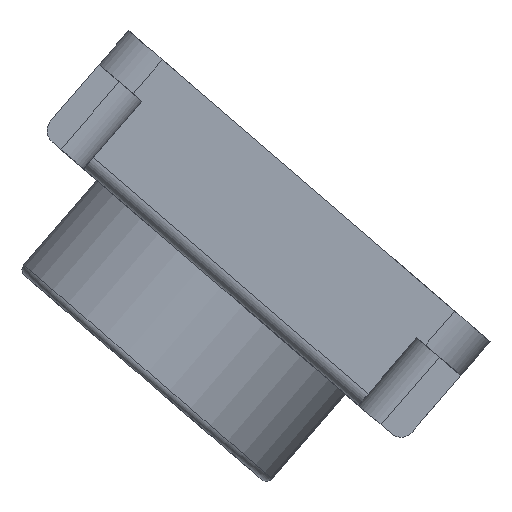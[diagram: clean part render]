
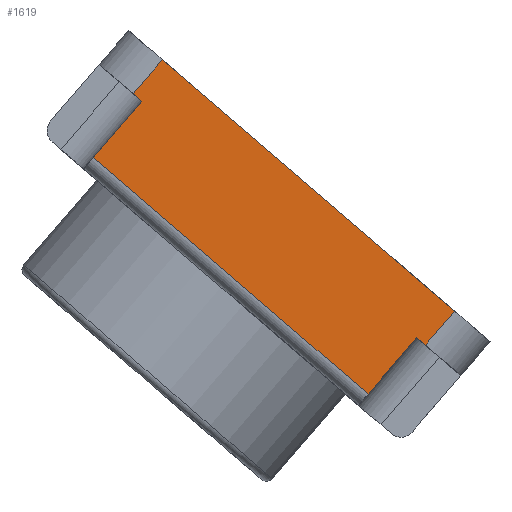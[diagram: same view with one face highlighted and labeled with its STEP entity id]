
A CAD part, front view. The second image highlights one B-rep face of the part: STEP entity #1619.
In plain terms, the highlighted planar face has unit normal (0, -1, 0).
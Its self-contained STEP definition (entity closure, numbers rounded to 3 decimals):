
#41 = VECTOR ( 'NONE', #1472, 1000. ) ;
#42 = ORIENTED_EDGE ( 'NONE', *, *, #1030, .T. ) ;
#72 = LINE ( 'NONE', #576, #1222 ) ;
#83 = DIRECTION ( 'NONE',  ( -0.758, 0., 0.652 ) ) ;
#107 = VECTOR ( 'NONE', #1257, 1000. ) ;
#140 = VERTEX_POINT ( 'NONE', #1332 ) ;
#154 = VERTEX_POINT ( 'NONE', #1461 ) ;
#184 = EDGE_CURVE ( 'NONE', #154, #1079, #2006, .T. ) ;
#193 = DIRECTION ( 'NONE',  ( 0.652, 0., 0.758 ) ) ;
#201 = ORIENTED_EDGE ( 'NONE', *, *, #184, .T. ) ;
#277 = VECTOR ( 'NONE', #2229, 1000. ) ;
#291 = CARTESIAN_POINT ( 'NONE',  ( -52.715, -50.084, 37.843 ) ) ;
#336 = CARTESIAN_POINT ( 'NONE',  ( -74.929, -50.084, 51.679 ) ) ;
#349 = VERTEX_POINT ( 'NONE', #291 ) ;
#366 = DIRECTION ( 'NONE',  ( -0.758, 0., 0.652 ) ) ;
#379 = CARTESIAN_POINT ( 'NONE',  ( -53.293, -50.084, 38.341 ) ) ;
#389 = VERTEX_POINT ( 'NONE', #1547 ) ;
#398 = EDGE_CURVE ( 'NONE', #349, #389, #1638, .T. ) ;
#403 = VECTOR ( 'NONE', #1721, 1000. ) ;
#406 = DIRECTION ( 'NONE',  ( 0., 0., 1. ) ) ;
#486 = ORIENTED_EDGE ( 'NONE', *, *, #2188, .F. ) ;
#538 = CARTESIAN_POINT ( 'NONE',  ( -71.742, -50.084, 54.214 ) ) ;
#576 = CARTESIAN_POINT ( 'NONE',  ( -50.759, -50.084, 40.118 ) ) ;
#608 = PLANE ( 'NONE',  #2153 ) ;
#676 = EDGE_CURVE ( 'NONE', #1763, #1520, #1029, .T. ) ;
#797 = VECTOR ( 'NONE', #193, 1000. ) ;
#798 = LINE ( 'NONE', #2060, #277 ) ;
#801 = CARTESIAN_POINT ( 'NONE',  ( -72.32, -50.084, 54.711 ) ) ;
#831 = VERTEX_POINT ( 'NONE', #1821 ) ;
#848 = EDGE_CURVE ( 'NONE', #349, #140, #1989, .T. ) ;
#1029 = LINE ( 'NONE', #336, #403 ) ;
#1030 = EDGE_CURVE ( 'NONE', #1079, #831, #1488, .T. ) ;
#1079 = VERTEX_POINT ( 'NONE', #1131 ) ;
#1131 = CARTESIAN_POINT ( 'NONE',  ( -75.003, -50.084, 50.423 ) ) ;
#1154 = CARTESIAN_POINT ( 'NONE',  ( -55.976, -50.084, 34.053 ) ) ;
#1192 = ORIENTED_EDGE ( 'NONE', *, *, #676, .F. ) ;
#1222 = VECTOR ( 'NONE', #83, 1000. ) ;
#1257 = DIRECTION ( 'NONE',  ( -0.758, 0., 0.652 ) ) ;
#1332 = CARTESIAN_POINT ( 'NONE',  ( -53.293, -50.084, 38.341 ) ) ;
#1377 = EDGE_LOOP ( 'NONE', ( #42, #486, #2110, #1565, #1507, #1192, #1425, #201 ) ) ;
#1425 = ORIENTED_EDGE ( 'NONE', *, *, #1515, .F. ) ;
#1456 = FACE_OUTER_BOUND ( 'NONE', #1377, .T. ) ;
#1461 = CARTESIAN_POINT ( 'NONE',  ( -71.742, -50.084, 54.214 ) ) ;
#1472 = DIRECTION ( 'NONE',  ( -0.652, 0., -0.758 ) ) ;
#1488 = LINE ( 'NONE', #1154, #1889 ) ;
#1494 = CARTESIAN_POINT ( 'NONE',  ( -71.742, -50.084, 54.214 ) ) ;
#1507 = ORIENTED_EDGE ( 'NONE', *, *, #2070, .T. ) ;
#1515 = EDGE_CURVE ( 'NONE', #154, #1763, #1967, .T. ) ;
#1520 = VERTEX_POINT ( 'NONE', #1563 ) ;
#1547 = CARTESIAN_POINT ( 'NONE',  ( -50.759, -50.084, 40.118 ) ) ;
#1563 = CARTESIAN_POINT ( 'NONE',  ( -70.364, -50.084, 56.985 ) ) ;
#1565 = ORIENTED_EDGE ( 'NONE', *, *, #398, .T. ) ;
#1589 = CARTESIAN_POINT ( 'NONE',  ( -55.324, -50.084, 34.811 ) ) ;
#1619 = ADVANCED_FACE ( 'NONE', ( #1456 ), #608, .F. ) ;
#1638 = LINE ( 'NONE', #1589, #797 ) ;
#1721 = DIRECTION ( 'NONE',  ( 0.652, 0., 0.758 ) ) ;
#1763 = VERTEX_POINT ( 'NONE', #801 ) ;
#1821 = CARTESIAN_POINT ( 'NONE',  ( -56.554, -50.084, 34.551 ) ) ;
#1889 = VECTOR ( 'NONE', #2194, 1000. ) ;
#1892 = VECTOR ( 'NONE', #366, 1000. ) ;
#1967 = LINE ( 'NONE', #538, #1892 ) ;
#1989 = LINE ( 'NONE', #379, #107 ) ;
#2006 = LINE ( 'NONE', #1494, #41 ) ;
#2020 = CARTESIAN_POINT ( 'NONE',  ( -55.324, -50.084, 34.811 ) ) ;
#2060 = CARTESIAN_POINT ( 'NONE',  ( -53.293, -50.084, 38.341 ) ) ;
#2070 = EDGE_CURVE ( 'NONE', #389, #1520, #72, .T. ) ;
#2110 = ORIENTED_EDGE ( 'NONE', *, *, #848, .F. ) ;
#2152 = DIRECTION ( 'NONE',  ( 0., 1., 0. ) ) ;
#2153 = AXIS2_PLACEMENT_3D ( 'NONE', #2020, #2152, #406 ) ;
#2188 = EDGE_CURVE ( 'NONE', #140, #831, #798, .T. ) ;
#2194 = DIRECTION ( 'NONE',  ( 0.758, 0., -0.652 ) ) ;
#2229 = DIRECTION ( 'NONE',  ( -0.652, 0., -0.758 ) ) ;
